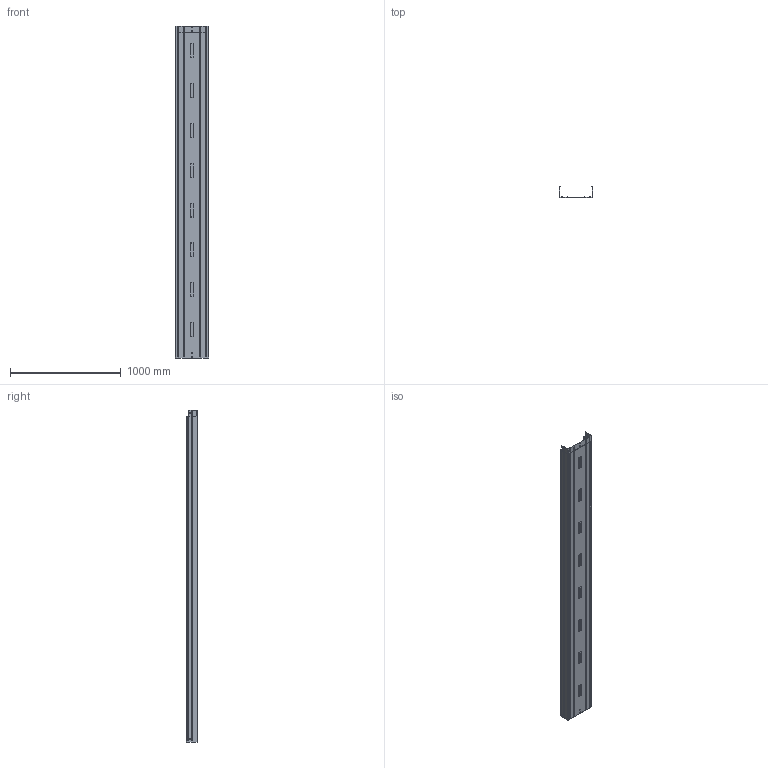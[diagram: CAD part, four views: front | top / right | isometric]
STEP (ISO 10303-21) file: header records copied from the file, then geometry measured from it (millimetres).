
FILE_DESCRIPTION (( 'STEP AP203' ), '1' );
FILE_NAME ('ERE-C 300x100 300x100.step', '2023-07-27T16:23:03', ( '' ), ( '' ), 'SwSTEP 2.0', 'SolidWorks 2022', '' );
FILE_SCHEMA (( 'CONFIG_CONTROL_DESIGN' ));
Products named in the file (1): ERE-C 300x100 300x100
Bounding box: 300 x 100.8 x 3000 mm (x, y, z)
Volume: 1082731.2 mm3; surface area: 3086352.1 mm2
Topology: 1 solids, 1 shells, 10155 faces, 29784 edges, 19710 vertices
Faces by surface type: plane 9812, cylinder 222, torus 64, cone 52, bspline 5
Entity records: 330093 total; most frequent: CARTESIAN_POINT 60050, ORIENTED_EDGE 59566, DIRECTION 50488, EDGE_CURVE 29783, LINE 29152, VECTOR 29152, VERTEX_POINT 19710, AXIS2_PLACEMENT_3D 10668
